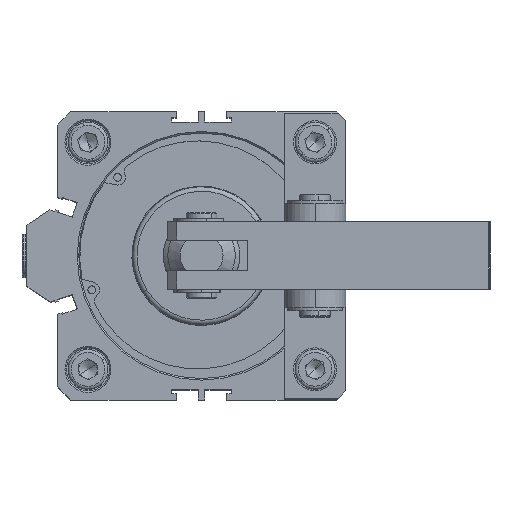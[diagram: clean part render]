
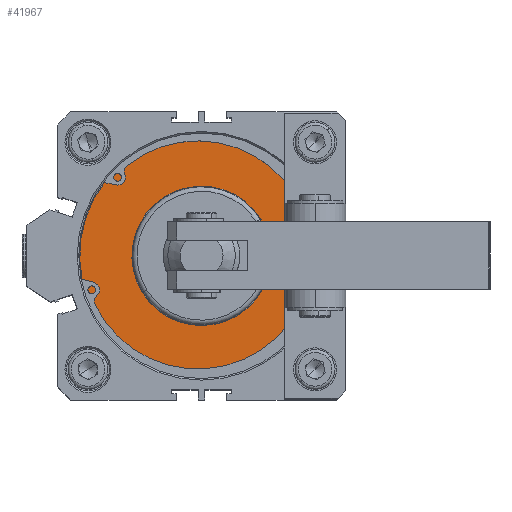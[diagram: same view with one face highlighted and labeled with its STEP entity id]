
A CAD part, top view. The second image highlights one B-rep face of the part: STEP entity #41967.
In plain terms, the highlighted planar face has unit normal (0, 0, 1) as drawn and (0, 1, 0) by its records, which use the part's own axes.
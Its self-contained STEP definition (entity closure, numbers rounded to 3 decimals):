
#38561 = TOROIDAL_SURFACE('',#38562,39.7,0.3);
#38562 = AXIS2_PLACEMENT_3D('',#38563,#38564,#38565);
#38563 = CARTESIAN_POINT('',(-5079.782,4032.811,0.)
  );
#38564 = DIRECTION('',(-0.,-1.,-0.));
#38565 = DIRECTION('',(0.,0.,-1.));
#38624 = EDGE_CURVE('',#38625,#38627,#38629,.T.);
#38625 = VERTEX_POINT('',#38626);
#38626 = CARTESIAN_POINT('',(-5079.782,4033.111,
    -39.7));
#38627 = VERTEX_POINT('',#38628);
#38628 = CARTESIAN_POINT('',(-5079.782,4033.111,
    39.7));
#38629 = SURFACE_CURVE('',#38630,(#38635,#38642),.PCURVE_S1.);
#38630 = CIRCLE('',#38631,39.7);
#38631 = AXIS2_PLACEMENT_3D('',#38632,#38633,#38634);
#38632 = CARTESIAN_POINT('',(-5079.782,4033.111,0.)
  );
#38633 = DIRECTION('',(0.,-1.,-0.));
#38634 = DIRECTION('',(0.,0.,-1.));
#38635 = PCURVE('',#38561,#38636);
#38636 = DEFINITIONAL_REPRESENTATION('',(#38637),#38641);
#38637 = LINE('',#38638,#38639);
#38638 = CARTESIAN_POINT('',(0.,4.712));
#38639 = VECTOR('',#38640,1.);
#38640 = DIRECTION('',(1.,0.));
#38641 = ( GEOMETRIC_REPRESENTATION_CONTEXT(2) 
PARAMETRIC_REPRESENTATION_CONTEXT() REPRESENTATION_CONTEXT('2D SPACE',''
  ) );
#38642 = PCURVE('',#38643,#38648);
#38643 = PLANE('',#38644);
#38644 = AXIS2_PLACEMENT_3D('',#38645,#38646,#38647);
#38645 = CARTESIAN_POINT('',(-5104.165,4033.111,0.)
  );
#38646 = DIRECTION('',(0.,1.,0.));
#38647 = DIRECTION('',(0.,-0.,1.));
#38648 = DEFINITIONAL_REPRESENTATION('',(#38649),#38657);
#38649 = ( BOUNDED_CURVE() B_SPLINE_CURVE(2,(#38650,#38651,#38652,#38653
    ,#38654,#38655,#38656),.UNSPECIFIED.,.T.,.F.) 
B_SPLINE_CURVE_WITH_KNOTS((1,2,2,2,2,1),(-2.094,0.,
    2.094,4.189,6.283,8.378),
.UNSPECIFIED.) CURVE() GEOMETRIC_REPRESENTATION_ITEM() 
RATIONAL_B_SPLINE_CURVE((1.,0.5,1.,0.5,1.,0.5,1.)) REPRESENTATION_ITEM(
  '') );
#38650 = CARTESIAN_POINT('',(-39.7,24.384));
#38651 = CARTESIAN_POINT('',(-39.7,93.146));
#38652 = CARTESIAN_POINT('',(19.85,58.765));
#38653 = CARTESIAN_POINT('',(79.4,24.384));
#38654 = CARTESIAN_POINT('',(19.85,-9.998));
#38655 = CARTESIAN_POINT('',(-39.7,-44.379));
#38656 = CARTESIAN_POINT('',(-39.7,24.384));
#38657 = ( GEOMETRIC_REPRESENTATION_CONTEXT(2) 
PARAMETRIC_REPRESENTATION_CONTEXT() REPRESENTATION_CONTEXT('2D SPACE',''
  ) );
#38674 = TOROIDAL_SURFACE('',#38675,39.7,0.3);
#38675 = AXIS2_PLACEMENT_3D('',#38676,#38677,#38678);
#38676 = CARTESIAN_POINT('',(-5079.782,4032.811,0.)
  );
#38677 = DIRECTION('',(-0.,-1.,-0.));
#38678 = DIRECTION('',(0.,0.,-1.));
#38713 = VERTEX_POINT('',#38714);
#38714 = CARTESIAN_POINT('',(-5079.782,4033.111,
    -22.7));
#38724 = TOROIDAL_SURFACE('',#38725,22.7,0.2);
#38725 = AXIS2_PLACEMENT_3D('',#38726,#38727,#38728);
#38726 = CARTESIAN_POINT('',(-5079.782,4033.311,0.)
  );
#38727 = DIRECTION('',(-0.,-1.,-0.));
#38728 = DIRECTION('',(0.,0.,-1.));
#38736 = TOROIDAL_SURFACE('',#38737,22.7,0.2);
#38737 = AXIS2_PLACEMENT_3D('',#38738,#38739,#38740);
#38738 = CARTESIAN_POINT('',(-5079.782,4033.311,0.)
  );
#38739 = DIRECTION('',(-0.,-1.,-0.));
#38740 = DIRECTION('',(0.,0.,-1.));
#38778 = VERTEX_POINT('',#38779);
#38779 = CARTESIAN_POINT('',(-5079.782,4033.111,
    22.7));
#38801 = EDGE_CURVE('',#38778,#38713,#38802,.T.);
#38802 = SURFACE_CURVE('',#38803,(#38808,#38815),.PCURVE_S1.);
#38803 = CIRCLE('',#38804,22.7);
#38804 = AXIS2_PLACEMENT_3D('',#38805,#38806,#38807);
#38805 = CARTESIAN_POINT('',(-5079.782,4033.111,0.)
  );
#38806 = DIRECTION('',(0.,-1.,-0.));
#38807 = DIRECTION('',(0.,0.,-1.));
#38808 = PCURVE('',#38724,#38809);
#38809 = DEFINITIONAL_REPRESENTATION('',(#38810),#38814);
#38810 = LINE('',#38811,#38812);
#38811 = CARTESIAN_POINT('',(0.,1.571));
#38812 = VECTOR('',#38813,1.);
#38813 = DIRECTION('',(1.,0.));
#38814 = ( GEOMETRIC_REPRESENTATION_CONTEXT(2) 
PARAMETRIC_REPRESENTATION_CONTEXT() REPRESENTATION_CONTEXT('2D SPACE',''
  ) );
#38815 = PCURVE('',#38643,#38816);
#38816 = DEFINITIONAL_REPRESENTATION('',(#38817),#38825);
#38817 = ( BOUNDED_CURVE() B_SPLINE_CURVE(2,(#38818,#38819,#38820,#38821
    ,#38822,#38823,#38824),.UNSPECIFIED.,.T.,.F.) 
B_SPLINE_CURVE_WITH_KNOTS((1,2,2,2,2,1),(-2.094,0.,
    2.094,4.189,6.283,8.378),
.UNSPECIFIED.) CURVE() GEOMETRIC_REPRESENTATION_ITEM() 
RATIONAL_B_SPLINE_CURVE((1.,0.5,1.,0.5,1.,0.5,1.)) REPRESENTATION_ITEM(
  '') );
#38818 = CARTESIAN_POINT('',(-22.7,24.384));
#38819 = CARTESIAN_POINT('',(-22.7,63.701));
#38820 = CARTESIAN_POINT('',(11.35,44.042));
#38821 = CARTESIAN_POINT('',(45.4,24.384));
#38822 = CARTESIAN_POINT('',(11.35,4.725));
#38823 = CARTESIAN_POINT('',(-22.7,-14.934));
#38824 = CARTESIAN_POINT('',(-22.7,24.384));
#38825 = ( GEOMETRIC_REPRESENTATION_CONTEXT(2) 
PARAMETRIC_REPRESENTATION_CONTEXT() REPRESENTATION_CONTEXT('2D SPACE',''
  ) );
#41941 = EDGE_CURVE('',#38713,#38778,#41942,.T.);
#41942 = SURFACE_CURVE('',#41943,(#41948,#41955),.PCURVE_S1.);
#41943 = CIRCLE('',#41944,22.7);
#41944 = AXIS2_PLACEMENT_3D('',#41945,#41946,#41947);
#41945 = CARTESIAN_POINT('',(-5079.782,4033.111,0.)
  );
#41946 = DIRECTION('',(0.,-1.,-0.));
#41947 = DIRECTION('',(0.,0.,-1.));
#41948 = PCURVE('',#38736,#41949);
#41949 = DEFINITIONAL_REPRESENTATION('',(#41950),#41954);
#41950 = LINE('',#41951,#41952);
#41951 = CARTESIAN_POINT('',(0.,1.571));
#41952 = VECTOR('',#41953,1.);
#41953 = DIRECTION('',(1.,0.));
#41954 = ( GEOMETRIC_REPRESENTATION_CONTEXT(2) 
PARAMETRIC_REPRESENTATION_CONTEXT() REPRESENTATION_CONTEXT('2D SPACE',''
  ) );
#41955 = PCURVE('',#38643,#41956);
#41956 = DEFINITIONAL_REPRESENTATION('',(#41957),#41965);
#41957 = ( BOUNDED_CURVE() B_SPLINE_CURVE(2,(#41958,#41959,#41960,#41961
    ,#41962,#41963,#41964),.UNSPECIFIED.,.T.,.F.) 
B_SPLINE_CURVE_WITH_KNOTS((1,2,2,2,2,1),(-2.094,0.,
    2.094,4.189,6.283,8.378),
.UNSPECIFIED.) CURVE() GEOMETRIC_REPRESENTATION_ITEM() 
RATIONAL_B_SPLINE_CURVE((1.,0.5,1.,0.5,1.,0.5,1.)) REPRESENTATION_ITEM(
  '') );
#41958 = CARTESIAN_POINT('',(-22.7,24.384));
#41959 = CARTESIAN_POINT('',(-22.7,63.701));
#41960 = CARTESIAN_POINT('',(11.35,44.042));
#41961 = CARTESIAN_POINT('',(45.4,24.384));
#41962 = CARTESIAN_POINT('',(11.35,4.725));
#41963 = CARTESIAN_POINT('',(-22.7,-14.934));
#41964 = CARTESIAN_POINT('',(-22.7,24.384));
#41965 = ( GEOMETRIC_REPRESENTATION_CONTEXT(2) 
PARAMETRIC_REPRESENTATION_CONTEXT() REPRESENTATION_CONTEXT('2D SPACE',''
  ) );
#41967 = ADVANCED_FACE('',(#41968,#41972),#38643,.T.);
#41968 = FACE_BOUND('',#41969,.T.);
#41969 = EDGE_LOOP('',(#41970,#41971));
#41970 = ORIENTED_EDGE('',*,*,#41941,.T.);
#41971 = ORIENTED_EDGE('',*,*,#38801,.T.);
#41972 = FACE_BOUND('',#41973,.T.);
#41973 = EDGE_LOOP('',(#41974,#41975));
#41974 = ORIENTED_EDGE('',*,*,#38624,.F.);
#41975 = ORIENTED_EDGE('',*,*,#41976,.F.);
#41976 = EDGE_CURVE('',#38627,#38625,#41977,.T.);
#41977 = SURFACE_CURVE('',#41978,(#41983,#41994),.PCURVE_S1.);
#41978 = CIRCLE('',#41979,39.7);
#41979 = AXIS2_PLACEMENT_3D('',#41980,#41981,#41982);
#41980 = CARTESIAN_POINT('',(-5079.782,4033.111,0.)
  );
#41981 = DIRECTION('',(0.,-1.,-0.));
#41982 = DIRECTION('',(0.,0.,-1.));
#41983 = PCURVE('',#38643,#41984);
#41984 = DEFINITIONAL_REPRESENTATION('',(#41985),#41993);
#41985 = ( BOUNDED_CURVE() B_SPLINE_CURVE(2,(#41986,#41987,#41988,#41989
    ,#41990,#41991,#41992),.UNSPECIFIED.,.T.,.F.) 
B_SPLINE_CURVE_WITH_KNOTS((1,2,2,2,2,1),(-2.094,0.,
    2.094,4.189,6.283,8.378),
.UNSPECIFIED.) CURVE() GEOMETRIC_REPRESENTATION_ITEM() 
RATIONAL_B_SPLINE_CURVE((1.,0.5,1.,0.5,1.,0.5,1.)) REPRESENTATION_ITEM(
  '') );
#41986 = CARTESIAN_POINT('',(-39.7,24.384));
#41987 = CARTESIAN_POINT('',(-39.7,93.146));
#41988 = CARTESIAN_POINT('',(19.85,58.765));
#41989 = CARTESIAN_POINT('',(79.4,24.384));
#41990 = CARTESIAN_POINT('',(19.85,-9.998));
#41991 = CARTESIAN_POINT('',(-39.7,-44.379));
#41992 = CARTESIAN_POINT('',(-39.7,24.384));
#41993 = ( GEOMETRIC_REPRESENTATION_CONTEXT(2) 
PARAMETRIC_REPRESENTATION_CONTEXT() REPRESENTATION_CONTEXT('2D SPACE',''
  ) );
#41994 = PCURVE('',#38674,#41995);
#41995 = DEFINITIONAL_REPRESENTATION('',(#41996),#42000);
#41996 = LINE('',#41997,#41998);
#41997 = CARTESIAN_POINT('',(0.,4.712));
#41998 = VECTOR('',#41999,1.);
#41999 = DIRECTION('',(1.,0.));
#42000 = ( GEOMETRIC_REPRESENTATION_CONTEXT(2) 
PARAMETRIC_REPRESENTATION_CONTEXT() REPRESENTATION_CONTEXT('2D SPACE',''
  ) );
